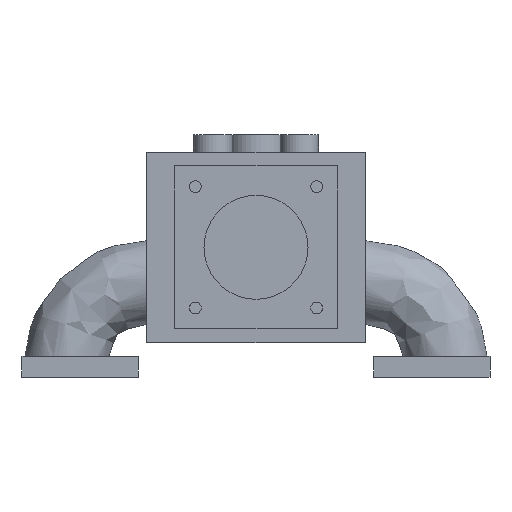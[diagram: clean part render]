
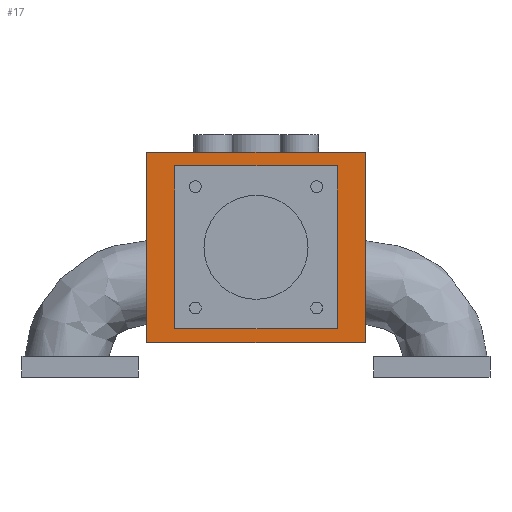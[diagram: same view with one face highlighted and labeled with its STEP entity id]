
A CAD part, left-side view. The second image highlights one B-rep face of the part: STEP entity #17.
In plain terms, the highlighted planar face has unit normal (-1, 0, 0).
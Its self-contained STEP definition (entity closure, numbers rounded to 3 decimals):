
#17 = ADVANCED_FACE('',(#18,#137),#32,.F.);
#18 = FACE_BOUND('',#19,.F.);
#19 = EDGE_LOOP('',(#20,#55,#83,#111));
#20 = ORIENTED_EDGE('',*,*,#21,.F.);
#21 = EDGE_CURVE('',#22,#24,#26,.T.);
#22 = VERTEX_POINT('',#23);
#23 = CARTESIAN_POINT('',(-15.5,-63.,440.));
#24 = VERTEX_POINT('',#25);
#25 = CARTESIAN_POINT('',(-15.5,-63.,549.907));
#26 = SURFACE_CURVE('',#27,(#31,#43),.PCURVE_S1.);
#27 = LINE('',#28,#29);
#28 = CARTESIAN_POINT('',(-15.5,-63.,440.));
#29 = VECTOR('',#30,1.);
#30 = DIRECTION('',(0.,0.,1.));
#31 = PCURVE('',#32,#37);
#32 = PLANE('',#33);
#33 = AXIS2_PLACEMENT_3D('',#34,#35,#36);
#34 = CARTESIAN_POINT('',(-15.5,-63.,440.));
#35 = DIRECTION('',(1.,0.,-0.));
#36 = DIRECTION('',(0.,0.,1.));
#37 = DEFINITIONAL_REPRESENTATION('',(#38),#42);
#38 = LINE('',#39,#40);
#39 = CARTESIAN_POINT('',(0.,0.));
#40 = VECTOR('',#41,1.);
#41 = DIRECTION('',(1.,0.));
#42 = ( GEOMETRIC_REPRESENTATION_CONTEXT(2) 
PARAMETRIC_REPRESENTATION_CONTEXT() REPRESENTATION_CONTEXT('2D SPACE',''
  ) );
#43 = PCURVE('',#44,#49);
#44 = PLANE('',#45);
#45 = AXIS2_PLACEMENT_3D('',#46,#47,#48);
#46 = CARTESIAN_POINT('',(-15.5,-63.,440.));
#47 = DIRECTION('',(-0.,1.,0.));
#48 = DIRECTION('',(0.,0.,1.));
#49 = DEFINITIONAL_REPRESENTATION('',(#50),#54);
#50 = LINE('',#51,#52);
#51 = CARTESIAN_POINT('',(0.,0.));
#52 = VECTOR('',#53,1.);
#53 = DIRECTION('',(1.,0.));
#54 = ( GEOMETRIC_REPRESENTATION_CONTEXT(2) 
PARAMETRIC_REPRESENTATION_CONTEXT() REPRESENTATION_CONTEXT('2D SPACE',''
  ) );
#55 = ORIENTED_EDGE('',*,*,#56,.T.);
#56 = EDGE_CURVE('',#22,#57,#59,.T.);
#57 = VERTEX_POINT('',#58);
#58 = CARTESIAN_POINT('',(-15.5,63.,440.));
#59 = SURFACE_CURVE('',#60,(#64,#71),.PCURVE_S1.);
#60 = LINE('',#61,#62);
#61 = CARTESIAN_POINT('',(-15.5,-63.,440.));
#62 = VECTOR('',#63,1.);
#63 = DIRECTION('',(-0.,1.,0.));
#64 = PCURVE('',#32,#65);
#65 = DEFINITIONAL_REPRESENTATION('',(#66),#70);
#66 = LINE('',#67,#68);
#67 = CARTESIAN_POINT('',(0.,0.));
#68 = VECTOR('',#69,1.);
#69 = DIRECTION('',(0.,-1.));
#70 = ( GEOMETRIC_REPRESENTATION_CONTEXT(2) 
PARAMETRIC_REPRESENTATION_CONTEXT() REPRESENTATION_CONTEXT('2D SPACE',''
  ) );
#71 = PCURVE('',#72,#77);
#72 = PLANE('',#73);
#73 = AXIS2_PLACEMENT_3D('',#74,#75,#76);
#74 = CARTESIAN_POINT('',(-15.5,-63.,440.));
#75 = DIRECTION('',(0.,0.,1.));
#76 = DIRECTION('',(1.,0.,-0.));
#77 = DEFINITIONAL_REPRESENTATION('',(#78),#82);
#78 = LINE('',#79,#80);
#79 = CARTESIAN_POINT('',(0.,0.));
#80 = VECTOR('',#81,1.);
#81 = DIRECTION('',(0.,1.));
#82 = ( GEOMETRIC_REPRESENTATION_CONTEXT(2) 
PARAMETRIC_REPRESENTATION_CONTEXT() REPRESENTATION_CONTEXT('2D SPACE',''
  ) );
#83 = ORIENTED_EDGE('',*,*,#84,.T.);
#84 = EDGE_CURVE('',#57,#85,#87,.T.);
#85 = VERTEX_POINT('',#86);
#86 = CARTESIAN_POINT('',(-15.5,63.,549.907));
#87 = SURFACE_CURVE('',#88,(#92,#99),.PCURVE_S1.);
#88 = LINE('',#89,#90);
#89 = CARTESIAN_POINT('',(-15.5,63.,440.));
#90 = VECTOR('',#91,1.);
#91 = DIRECTION('',(0.,0.,1.));
#92 = PCURVE('',#32,#93);
#93 = DEFINITIONAL_REPRESENTATION('',(#94),#98);
#94 = LINE('',#95,#96);
#95 = CARTESIAN_POINT('',(0.,-126.));
#96 = VECTOR('',#97,1.);
#97 = DIRECTION('',(1.,0.));
#98 = ( GEOMETRIC_REPRESENTATION_CONTEXT(2) 
PARAMETRIC_REPRESENTATION_CONTEXT() REPRESENTATION_CONTEXT('2D SPACE',''
  ) );
#99 = PCURVE('',#100,#105);
#100 = PLANE('',#101);
#101 = AXIS2_PLACEMENT_3D('',#102,#103,#104);
#102 = CARTESIAN_POINT('',(-15.5,63.,440.));
#103 = DIRECTION('',(-0.,1.,0.));
#104 = DIRECTION('',(0.,0.,1.));
#105 = DEFINITIONAL_REPRESENTATION('',(#106),#110);
#106 = LINE('',#107,#108);
#107 = CARTESIAN_POINT('',(0.,0.));
#108 = VECTOR('',#109,1.);
#109 = DIRECTION('',(1.,0.));
#110 = ( GEOMETRIC_REPRESENTATION_CONTEXT(2) 
PARAMETRIC_REPRESENTATION_CONTEXT() REPRESENTATION_CONTEXT('2D SPACE',''
  ) );
#111 = ORIENTED_EDGE('',*,*,#112,.F.);
#112 = EDGE_CURVE('',#24,#85,#113,.T.);
#113 = SURFACE_CURVE('',#114,(#118,#125),.PCURVE_S1.);
#114 = LINE('',#115,#116);
#115 = CARTESIAN_POINT('',(-15.5,-63.,549.907));
#116 = VECTOR('',#117,1.);
#117 = DIRECTION('',(-0.,1.,0.));
#118 = PCURVE('',#32,#119);
#119 = DEFINITIONAL_REPRESENTATION('',(#120),#124);
#120 = LINE('',#121,#122);
#121 = CARTESIAN_POINT('',(109.907,0.));
#122 = VECTOR('',#123,1.);
#123 = DIRECTION('',(0.,-1.));
#124 = ( GEOMETRIC_REPRESENTATION_CONTEXT(2) 
PARAMETRIC_REPRESENTATION_CONTEXT() REPRESENTATION_CONTEXT('2D SPACE',''
  ) );
#125 = PCURVE('',#126,#131);
#126 = PLANE('',#127);
#127 = AXIS2_PLACEMENT_3D('',#128,#129,#130);
#128 = CARTESIAN_POINT('',(-15.5,-63.,549.907));
#129 = DIRECTION('',(0.,0.,1.));
#130 = DIRECTION('',(1.,0.,-0.));
#131 = DEFINITIONAL_REPRESENTATION('',(#132),#136);
#132 = LINE('',#133,#134);
#133 = CARTESIAN_POINT('',(0.,0.));
#134 = VECTOR('',#135,1.);
#135 = DIRECTION('',(0.,1.));
#136 = ( GEOMETRIC_REPRESENTATION_CONTEXT(2) 
PARAMETRIC_REPRESENTATION_CONTEXT() REPRESENTATION_CONTEXT('2D SPACE',''
  ) );
#137 = FACE_BOUND('',#138,.F.);
#138 = EDGE_LOOP('',(#139,#169,#197,#225));
#139 = ORIENTED_EDGE('',*,*,#140,.F.);
#140 = EDGE_CURVE('',#141,#143,#145,.T.);
#141 = VERTEX_POINT('',#142);
#142 = CARTESIAN_POINT('',(-15.5,-47.,447.953));
#143 = VERTEX_POINT('',#144);
#144 = CARTESIAN_POINT('',(-15.5,47.,447.953));
#145 = SURFACE_CURVE('',#146,(#150,#157),.PCURVE_S1.);
#146 = LINE('',#147,#148);
#147 = CARTESIAN_POINT('',(-15.5,-47.,447.953));
#148 = VECTOR('',#149,1.);
#149 = DIRECTION('',(0.,1.,0.));
#150 = PCURVE('',#32,#151);
#151 = DEFINITIONAL_REPRESENTATION('',(#152),#156);
#152 = LINE('',#153,#154);
#153 = CARTESIAN_POINT('',(7.953,-16.));
#154 = VECTOR('',#155,1.);
#155 = DIRECTION('',(0.,-1.));
#156 = ( GEOMETRIC_REPRESENTATION_CONTEXT(2) 
PARAMETRIC_REPRESENTATION_CONTEXT() REPRESENTATION_CONTEXT('2D SPACE',''
  ) );
#157 = PCURVE('',#158,#163);
#158 = PLANE('',#159);
#159 = AXIS2_PLACEMENT_3D('',#160,#161,#162);
#160 = CARTESIAN_POINT('',(-15.5,-47.,447.953));
#161 = DIRECTION('',(0.,0.,-1.));
#162 = DIRECTION('',(-1.,0.,0.));
#163 = DEFINITIONAL_REPRESENTATION('',(#164),#168);
#164 = LINE('',#165,#166);
#165 = CARTESIAN_POINT('',(0.,0.));
#166 = VECTOR('',#167,1.);
#167 = DIRECTION('',(0.,1.));
#168 = ( GEOMETRIC_REPRESENTATION_CONTEXT(2) 
PARAMETRIC_REPRESENTATION_CONTEXT() REPRESENTATION_CONTEXT('2D SPACE',''
  ) );
#169 = ORIENTED_EDGE('',*,*,#170,.F.);
#170 = EDGE_CURVE('',#171,#141,#173,.T.);
#171 = VERTEX_POINT('',#172);
#172 = CARTESIAN_POINT('',(-15.5,-47.,541.953));
#173 = SURFACE_CURVE('',#174,(#178,#185),.PCURVE_S1.);
#174 = LINE('',#175,#176);
#175 = CARTESIAN_POINT('',(-15.5,-47.,541.953));
#176 = VECTOR('',#177,1.);
#177 = DIRECTION('',(0.,0.,-1.));
#178 = PCURVE('',#32,#179);
#179 = DEFINITIONAL_REPRESENTATION('',(#180),#184);
#180 = LINE('',#181,#182);
#181 = CARTESIAN_POINT('',(101.953,-16.));
#182 = VECTOR('',#183,1.);
#183 = DIRECTION('',(-1.,0.));
#184 = ( GEOMETRIC_REPRESENTATION_CONTEXT(2) 
PARAMETRIC_REPRESENTATION_CONTEXT() REPRESENTATION_CONTEXT('2D SPACE',''
  ) );
#185 = PCURVE('',#186,#191);
#186 = PLANE('',#187);
#187 = AXIS2_PLACEMENT_3D('',#188,#189,#190);
#188 = CARTESIAN_POINT('',(-15.5,-47.,541.953));
#189 = DIRECTION('',(0.,1.,0.));
#190 = DIRECTION('',(-1.,0.,0.));
#191 = DEFINITIONAL_REPRESENTATION('',(#192),#196);
#192 = LINE('',#193,#194);
#193 = CARTESIAN_POINT('',(0.,0.));
#194 = VECTOR('',#195,1.);
#195 = DIRECTION('',(0.,-1.));
#196 = ( GEOMETRIC_REPRESENTATION_CONTEXT(2) 
PARAMETRIC_REPRESENTATION_CONTEXT() REPRESENTATION_CONTEXT('2D SPACE',''
  ) );
#197 = ORIENTED_EDGE('',*,*,#198,.T.);
#198 = EDGE_CURVE('',#171,#199,#201,.T.);
#199 = VERTEX_POINT('',#200);
#200 = CARTESIAN_POINT('',(-15.5,47.,541.953));
#201 = SURFACE_CURVE('',#202,(#206,#213),.PCURVE_S1.);
#202 = LINE('',#203,#204);
#203 = CARTESIAN_POINT('',(-15.5,-47.,541.953));
#204 = VECTOR('',#205,1.);
#205 = DIRECTION('',(0.,1.,0.));
#206 = PCURVE('',#32,#207);
#207 = DEFINITIONAL_REPRESENTATION('',(#208),#212);
#208 = LINE('',#209,#210);
#209 = CARTESIAN_POINT('',(101.953,-16.));
#210 = VECTOR('',#211,1.);
#211 = DIRECTION('',(0.,-1.));
#212 = ( GEOMETRIC_REPRESENTATION_CONTEXT(2) 
PARAMETRIC_REPRESENTATION_CONTEXT() REPRESENTATION_CONTEXT('2D SPACE',''
  ) );
#213 = PCURVE('',#214,#219);
#214 = PLANE('',#215);
#215 = AXIS2_PLACEMENT_3D('',#216,#217,#218);
#216 = CARTESIAN_POINT('',(-15.5,-47.,541.953));
#217 = DIRECTION('',(0.,0.,-1.));
#218 = DIRECTION('',(-1.,0.,0.));
#219 = DEFINITIONAL_REPRESENTATION('',(#220),#224);
#220 = LINE('',#221,#222);
#221 = CARTESIAN_POINT('',(0.,0.));
#222 = VECTOR('',#223,1.);
#223 = DIRECTION('',(0.,1.));
#224 = ( GEOMETRIC_REPRESENTATION_CONTEXT(2) 
PARAMETRIC_REPRESENTATION_CONTEXT() REPRESENTATION_CONTEXT('2D SPACE',''
  ) );
#225 = ORIENTED_EDGE('',*,*,#226,.T.);
#226 = EDGE_CURVE('',#199,#143,#227,.T.);
#227 = SURFACE_CURVE('',#228,(#232,#239),.PCURVE_S1.);
#228 = LINE('',#229,#230);
#229 = CARTESIAN_POINT('',(-15.5,47.,541.953));
#230 = VECTOR('',#231,1.);
#231 = DIRECTION('',(0.,0.,-1.));
#232 = PCURVE('',#32,#233);
#233 = DEFINITIONAL_REPRESENTATION('',(#234),#238);
#234 = LINE('',#235,#236);
#235 = CARTESIAN_POINT('',(101.953,-110.));
#236 = VECTOR('',#237,1.);
#237 = DIRECTION('',(-1.,0.));
#238 = ( GEOMETRIC_REPRESENTATION_CONTEXT(2) 
PARAMETRIC_REPRESENTATION_CONTEXT() REPRESENTATION_CONTEXT('2D SPACE',''
  ) );
#239 = PCURVE('',#240,#245);
#240 = PLANE('',#241);
#241 = AXIS2_PLACEMENT_3D('',#242,#243,#244);
#242 = CARTESIAN_POINT('',(-15.5,47.,541.953));
#243 = DIRECTION('',(0.,1.,0.));
#244 = DIRECTION('',(-1.,0.,0.));
#245 = DEFINITIONAL_REPRESENTATION('',(#246),#250);
#246 = LINE('',#247,#248);
#247 = CARTESIAN_POINT('',(0.,0.));
#248 = VECTOR('',#249,1.);
#249 = DIRECTION('',(0.,-1.));
#250 = ( GEOMETRIC_REPRESENTATION_CONTEXT(2) 
PARAMETRIC_REPRESENTATION_CONTEXT() REPRESENTATION_CONTEXT('2D SPACE',''
  ) );
